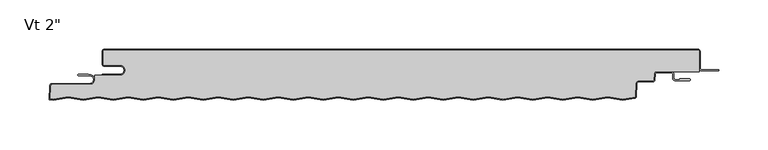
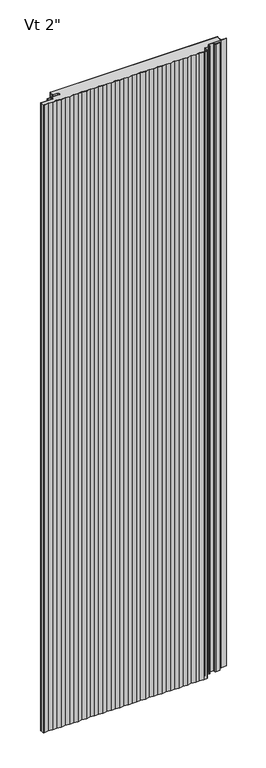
"""IFC4 building model written with IfcOpenShell, lengths in millimetres: plate geometry."""

from ifc_helpers import new_model, si_unit, point, frame, frame_2d, origin, origin_with_axes, place, context, project, spatial, polyline, circle_curve, ellipse_curve, trimmed, segment, composite_curve, outline, extrude, source, transform, mapped, element, save
from ifc_brep_helpers import plane_surface, cylinder_surface, revolved_surface, extruded_surface, advanced_brep


def plate_da60bb30(model_context):
    return source(origin(), model_context, "Body", "SolidModel", [
        extrude(outline(composite_curve([segment(trimmed(circle_curve(frame_2d((259.7683457, -25.4)), 2.5875), [point((259.7683457, -22.8125))], [point((257.1843918, -25.2645807))], True, "CARTESIAN"), True, "CONTINUOUS"), segment(polyline([(257.1843918, -25.2645807), (256.8823155, -31.028539)]), True, "CONTINUOUS"), segment(trimmed(circle_curve(frame_2d((255.5029585, -30.95625)), 1.38125), [point((256.8823155, -31.028539))], [point((255.5029585, -32.3375))], False, "CARTESIAN"), True, "CONTINUOUS"), segment(polyline([(255.5029585, -32.3375), (241.3323847, -32.3375)]), True, "CONTINUOUS"), segment(trimmed(circle_curve(frame_2d((241.3323847, -34.925)), 2.5875), [point((241.3323847, -32.3375))], [point((238.7484307, -34.7895807))], True, "CARTESIAN"), True, "CONTINUOUS"), segment(polyline([(238.7484307, -34.7895807), (238.0106485, -48.8673048), (225.2725, -50.9054086), (210.2350675, -48.4994194), (194.9950675, -50.9378194), (179.7550675, -48.4994194), (164.5150675, -50.9378194), (149.2750675, -48.4994194), (134.0350675, -50.9378194), (118.7950675, -48.4994194), (103.5550675, -50.9378194), (88.3150675, -48.4994194), (73.0750675, -50.9378194), (57.8350675, -48.4994194), (42.5950675, -50.9378194), (27.3550675, -48.4994194), (12.1150675, -50.9378194), (-3.1249325, -48.4994194), (-18.3649325, -50.9378194), (-33.6049325, -48.4994194), (-48.8449325, -50.9378194), (-64.0849325, -48.4994194), (-79.3249325, -50.9378194), (-94.5649325, -48.4994194), (-109.8049325, -50.9378194), (-125.0449325, -48.4994194), (-140.2849325, -50.9378194), (-155.5249325, -48.4994194), (-170.7649325, -50.9378194), (-186.0049325, -48.4994194), (-201.2449325, -50.9378194), (-216.4849325, -48.4994194), (-231.7249325, -50.9378194), (-246.9649325, -48.4994194), (-262.2049325, -50.9378194), (-277.4449325, -48.4994194), (-292.6849325, -50.9378194), (-307.9249325, -48.4994194), (-323.1649325, -50.9378194), (-338.4049325, -48.4994194), (-353.6449325, -50.9378194), (-356.9531106, -50.4085109), (-356.2626617, -37.233961)]), True, "CONTINUOUS"), segment(trimmed(circle_curve(frame_2d((-354.8833046, -37.30625)), 1.38125), [point((-356.2626617, -37.233961))], [point((-354.8833046, -35.925))], False, "CARTESIAN"), True, "CONTINUOUS"), segment(polyline([(-354.8833046, -35.925), (-316.7, -35.925)]), True, "CONTINUOUS"), segment(trimmed(circle_curve(frame_2d((-316.7, -30.95625)), 4.96875), [point((-316.7, -35.925))], [point((-311.73125, -30.95625))], True, "CARTESIAN"), True, "CONTINUOUS"), segment(polyline([(-311.73125, -30.95625), (-311.73125, -26.4), (-285.74375, -26.4)]), True, "CONTINUOUS"), segment(trimmed(circle_curve(frame_2d((-285.74375, -21.43125)), 4.96875), [point((-285.74375, -26.4))], [point((-285.74375, -16.4625))], True, "CARTESIAN"), True, "CONTINUOUS"), segment(polyline([(-285.74375, -16.4625), (-301.61875, -16.4625)]), True, "CONTINUOUS"), segment(trimmed(circle_curve(frame_2d((-301.61875, -15.08125)), 1.38125), [point((-301.61875, -16.4625))], [point((-303.0, -15.08125))], False, "CARTESIAN"), True, "CONTINUOUS"), segment(polyline([(-303.0, -15.08125), (-303.0, -2.38125)]), True, "CONTINUOUS"), segment(trimmed(circle_curve(frame_2d((-301.61875, -2.38125)), 1.38125), [point((-303.0, -2.38125))], [point((-301.61875, -1.0))], False, "CARTESIAN"), True, "CONTINUOUS"), segment(polyline([(-301.61875, -1.0), (301.63125, -1.0)]), True, "CONTINUOUS"), segment(trimmed(circle_curve(frame_2d((301.63125, -2.38125)), 1.38125), [point((301.63125, -1.0))], [point((303.0125, -2.38125))], False, "CARTESIAN"), True, "CONTINUOUS"), segment(polyline([(303.0125, -2.38125), (303.0125, -22.8125), (259.7683457, -22.8125)]), True, "CONTINUOUS")], self_intersect=False)), origin_with_axes(), (0.0, 0.0, 1.0), 2400.0),
        extrude(outline(composite_curve([segment(polyline([(-304.0, -25.4), (-285.74375, -25.4)]), True, "CONTINUOUS"), segment(trimmed(circle_curve(frame_2d((-285.74375, -21.43125)), 3.96875), [point((-285.74375, -25.4))], [point((-285.74375, -17.4625))], True, "CARTESIAN"), True, "CONTINUOUS"), segment(polyline([(-285.74375, -17.4625), (-301.61875, -17.4625)]), True, "CONTINUOUS"), segment(trimmed(circle_curve(frame_2d((-301.61875, -15.08125)), 2.38125), [point((-301.61875, -17.4625))], [point((-304.0, -15.08125))], False, "CARTESIAN"), True, "CONTINUOUS"), segment(polyline([(-304.0, -15.08125), (-304.0, -2.38125)]), True, "CONTINUOUS"), segment(trimmed(circle_curve(frame_2d((-301.61875, -2.38125)), 2.38125), [point((-304.0, -2.38125))], [point((-301.61875, 0.0))], False, "CARTESIAN"), True, "CONTINUOUS"), segment(polyline([(-301.61875, 0.0), (301.63125, 0.0)]), True, "CONTINUOUS"), segment(trimmed(circle_curve(frame_2d((301.63125, -2.38125)), 2.38125), [point((301.63125, 0.0))], [point((304.0125, -2.38125))], False, "CARTESIAN"), True, "CONTINUOUS"), segment(polyline([(304.0125, -2.38125), (304.0125, -19.446875)]), True, "CONTINUOUS"), segment(trimmed(circle_curve(frame_2d((305.6, -19.446875)), 1.5875), [point((304.0125, -19.446875))], [point((305.6, -21.034375))], True, "CARTESIAN"), True, "CONTINUOUS"), segment(polyline([(305.6, -21.034375), (323.0625, -21.034375), (323.0625, -22.034375), (305.6, -22.034375)]), True, "CONTINUOUS"), segment(trimmed(circle_curve(frame_2d((305.6, -19.446875)), 2.5875), [point((305.6, -22.034375))], [point((303.0125, -19.446875))], False, "CARTESIAN"), True, "CONTINUOUS"), segment(polyline([(303.0125, -19.446875), (303.0125, -2.38125)]), True, "CONTINUOUS"), segment(trimmed(circle_curve(frame_2d((301.63125, -2.38125)), 1.38125), [point((303.0125, -2.38125))], [point((301.63125, -1.0))], True, "CARTESIAN"), True, "CONTINUOUS"), segment(polyline([(301.63125, -1.0), (-301.61875, -1.0)]), True, "CONTINUOUS"), segment(trimmed(circle_curve(frame_2d((-301.61875, -2.38125)), 1.38125), [point((-301.61875, -1.0))], [point((-303.0, -2.38125))], True, "CARTESIAN"), True, "CONTINUOUS"), segment(polyline([(-303.0, -2.38125), (-303.0, -15.08125)]), True, "CONTINUOUS"), segment(trimmed(circle_curve(frame_2d((-301.61875, -15.08125)), 1.38125), [point((-303.0, -15.08125))], [point((-301.61875, -16.4625))], True, "CARTESIAN"), True, "CONTINUOUS"), segment(polyline([(-301.61875, -16.4625), (-285.74375, -16.4625)]), True, "CONTINUOUS"), segment(trimmed(circle_curve(frame_2d((-285.74375, -21.43125)), 4.96875), [point((-285.74375, -16.4625))], [point((-285.74375, -26.4))], False, "CARTESIAN"), True, "CONTINUOUS"), segment(polyline([(-285.74375, -26.4), (-304.0, -26.4), (-304.0, -25.4)]), True, "CONTINUOUS")], self_intersect=False)), origin_with_axes(), (0.0, 0.0, 1.0), 2400.0),
        advanced_brep(
        [(-328.0252049, -25.4, 2400.0), (-328.0252049, -26.9875, 2400.0), (-316.7142674, -26.9875, 2400.0), (-316.7142674, -34.925, 2400.0), (-354.8975721, -34.925, 2400.0), (-357.2755586, -37.181625, 2400.0), (-358.01832, -51.3543553, 2400.0), (-353.6646686, -52.0509395, 2400.0), (-338.4246686, -49.6125395, 2400.0), (-323.1846686, -52.0509395, 2400.0), (-307.9446686, -49.6125395, 2400.0), (-292.7046686, -52.0509395, 2400.0), (-277.4646686, -49.6125395, 2400.0), (-262.2246686, -52.0509395, 2400.0), (-246.9846686, -49.6125395, 2400.0), (-231.7446686, -52.0509395, 2400.0), (-216.5046686, -49.6125395, 2400.0), (-201.2646686, -52.0509395, 2400.0), (-186.0246686, -49.6125395, 2400.0), (-170.7846686, -52.0509395, 2400.0), (-155.5446686, -49.6125395, 2400.0), (-140.3046686, -52.0509395, 2400.0), (-125.0646686, -49.6125395, 2400.0), (-109.8246686, -52.0509395, 2400.0), (-94.5846686, -49.6125395, 2400.0), (-79.3446686, -52.0509395, 2400.0), (-64.1046686, -49.6125395, 2400.0), (-48.8646686, -52.0509395, 2400.0), (-33.6246686, -49.6125395, 2400.0), (-18.3846686, -52.0509395, 2400.0), (-3.1446686, -49.6125395, 2400.0), (12.0953314, -52.0509395, 2400.0), (27.3353314, -49.6125395, 2400.0), (42.5753314, -52.0509395, 2400.0), (57.8153314, -49.6125395, 2400.0), (73.0553314, -52.0509395, 2400.0), (88.2953314, -49.6125395, 2400.0), (103.5353314, -52.0509395, 2400.0), (118.7753314, -49.6125395, 2400.0), (134.0153314, -52.0509395, 2400.0), (149.2553314, -49.6125395, 2400.0), (164.4953314, -52.0509395, 2400.0), (179.7353314, -49.6125395, 2400.0), (194.9753314, -52.0509395, 2400.0), (210.2153314, -49.6125395, 2400.0), (225.2527639, -52.0185287, 2400.0), (237.6944828, -50.0278537, 2400.0), (239.0289973, -48.543375, 2400.0), (239.7470603, -34.8419167, 2400.0), (241.3323847, -33.3375, 2400.0), (255.4886911, -33.3375, 2400.0), (257.8666776, -31.080875, 2400.0), (258.1687539, -25.3169167, 2400.0), (259.7540783, -23.8125, 2400.0), (274.6294826, -23.8125, 2400.0), (276.2169826, -25.4, 2400.0), (276.2169826, -29.5671875, 2400.0), (278.5982326, -31.9484375, 2400.0), (293.0898532, -31.9484375, 2400.0), (293.0898532, -30.1546875, 2400.0), (283.3607326, -30.1546875, 2400.0), (283.3607326, -30.9484375, 2400.0), (278.5982326, -30.9484375, 2400.0), (277.2169826, -29.5671875, 2400.0), (277.2169826, -25.4, 2400.0), (274.6294826, -22.8125, 2400.0), (259.7540783, -22.8125, 2400.0), (257.1701244, -25.2645807, 2400.0), (256.8680481, -31.028539, 2400.0), (255.4886911, -32.3375, 2400.0), (241.3323847, -32.3375, 2400.0), (238.7484307, -34.7895807, 2400.0), (238.0303677, -48.491039, 2400.0), (237.5364923, -49.040413, 2400.0), (225.2527639, -51.0058096, 2400.0), (210.2153314, -48.5998204, 2400.0), (194.9753314, -51.0382204, 2400.0), (179.7353314, -48.5998204, 2400.0), (164.4953314, -51.0382204, 2400.0), (149.2553314, -48.5998204, 2400.0), (134.0153314, -51.0382204, 2400.0), (118.7753314, -48.5998204, 2400.0), (103.5353314, -51.0382204, 2400.0), (88.2953314, -48.5998204, 2400.0), (73.0553314, -51.0382204, 2400.0), (57.8153314, -48.5998204, 2400.0), (42.5753314, -51.0382204, 2400.0), (27.3353314, -48.5998204, 2400.0), (12.0953314, -51.0382204, 2400.0), (-3.1446686, -48.5998204, 2400.0), (-18.3846686, -51.0382204, 2400.0), (-33.6246686, -48.5998204, 2400.0), (-48.8646686, -51.0382204, 2400.0), (-64.1046686, -48.5998204, 2400.0), (-79.3446686, -51.0382204, 2400.0), (-94.5846686, -48.5998204, 2400.0), (-109.8246686, -51.0382204, 2400.0), (-125.0646686, -48.5998204, 2400.0), (-140.3046686, -51.0382204, 2400.0), (-155.5446686, -48.5998204, 2400.0), (-170.7846686, -51.0382204, 2400.0), (-186.0246686, -48.5998204, 2400.0), (-201.2646686, -51.0382204, 2400.0), (-216.5046686, -48.5998204, 2400.0), (-231.7446686, -51.0382204, 2400.0), (-246.9846686, -48.5998204, 2400.0), (-262.2246686, -51.0382204, 2400.0), (-277.4646686, -48.5998204, 2400.0), (-292.7046686, -51.0382204, 2400.0), (-307.9446686, -48.5998204, 2400.0), (-323.1846686, -51.0382204, 2400.0), (-338.4246686, -48.5998204, 2400.0), (-353.6646686, -51.0382204, 2400.0), (-356.9726415, -50.5089447, 2400.0), (-356.2769291, -37.233961, 2400.0), (-354.8975721, -35.925, 2400.0), (-316.7142674, -35.925, 2400.0), (-316.7142674, -25.9875, 2400.0), (-318.3017674, -26.19375, 2400.0), (-318.3017674, -25.4, 2400.0), (-328.0252049, -25.4, 0.0), (-318.3017674, -25.4, 0.0), (-318.3017674, -26.19375, 0.0), (-316.7142674, -25.9875, 0.0), (-316.7142674, -35.925, 0.0), (-354.8975721, -35.925, 0.0), (-356.2769291, -37.233961, 0.0), (-356.9726415, -50.5089447, 0.0), (-353.6646686, -51.0382204, 0.0), (-338.4246686, -48.5998204, 0.0), (-323.1846686, -51.0382204, 0.0), (-307.9446686, -48.5998204, 0.0), (-292.7046686, -51.0382204, 0.0), (-277.4646686, -48.5998204, 0.0), (-262.2246686, -51.0382204, 0.0), (-246.9846686, -48.5998204, 0.0), (-231.7446686, -51.0382204, 0.0), (-216.5046686, -48.5998204, 0.0), (-201.2646686, -51.0382204, 0.0), (-186.0246686, -48.5998204, 0.0), (-170.7846686, -51.0382204, 0.0), (-155.5446686, -48.5998204, 0.0), (-140.3046686, -51.0382204, 0.0), (-125.0646686, -48.5998204, 0.0), (-109.8246686, -51.0382204, 0.0), (-94.5846686, -48.5998204, 0.0), (-79.3446686, -51.0382204, 0.0), (-64.1046686, -48.5998204, 0.0), (-48.8646686, -51.0382204, 0.0), (-33.6246686, -48.5998204, 0.0), (-18.3846686, -51.0382204, 0.0), (-3.1446686, -48.5998204, 0.0), (12.0953314, -51.0382204, 0.0), (27.3353314, -48.5998204, 0.0), (42.5753314, -51.0382204, 0.0), (57.8153314, -48.5998204, 0.0), (73.0553314, -51.0382204, 0.0), (88.2953314, -48.5998204, 0.0), (103.5353314, -51.0382204, 0.0), (118.7753314, -48.5998204, 0.0), (134.0153314, -51.0382204, 0.0), (149.2553314, -48.5998204, 0.0), (164.4953314, -51.0382204, 0.0), (179.7353314, -48.5998204, 0.0), (194.9753314, -51.0382204, 0.0), (210.2153314, -48.5998204, 0.0), (225.2527639, -51.0058096, 0.0), (237.5364923, -49.040413, 0.0), (238.0303677, -48.491039, 0.0), (238.7484307, -34.7895807, 0.0), (241.3323847, -32.3375, 0.0), (255.4886911, -32.3375, 0.0), (256.8680481, -31.028539, 0.0), (257.1701244, -25.2645807, 0.0), (259.7540783, -22.8125, 0.0), (274.6294826, -22.8125, 0.0), (277.2169826, -25.4, 0.0), (277.2169826, -29.5671875, 0.0), (278.5982326, -30.9484375, 0.0), (283.3607326, -30.9484375, 0.0), (283.3607326, -30.1546875, 0.0), (293.0898532, -30.1546875, 0.0), (293.0898532, -31.9484375, 0.0), (278.5982326, -31.9484375, 0.0), (276.2169826, -29.5671875, 0.0), (276.2169826, -25.4, 0.0), (274.6294826, -23.8125, 0.0), (259.7540783, -23.8125, 0.0), (258.1687539, -25.3169167, 0.0), (257.8666776, -31.080875, 0.0), (255.4886911, -33.3375, 0.0), (241.3323847, -33.3375, 0.0), (239.7470603, -34.8419167, 0.0), (239.0289973, -48.543375, 0.0), (237.6944828, -50.0278537, 0.0), (225.2527639, -52.0185287, 0.0), (210.2153314, -49.6125395, 0.0), (194.9753314, -52.0509395, 0.0), (179.7353314, -49.6125395, 0.0), (164.4953314, -52.0509395, 0.0), (149.2553314, -49.6125395, 0.0), (134.0153314, -52.0509395, 0.0), (118.7753314, -49.6125395, 0.0), (103.5353314, -52.0509395, 0.0), (88.2953314, -49.6125395, 0.0), (73.0553314, -52.0509395, 0.0), (57.8153314, -49.6125395, 0.0), (42.5753314, -52.0509395, 0.0), (27.3353314, -49.6125395, 0.0), (12.0953314, -52.0509395, 0.0), (-3.1446686, -49.6125395, 0.0), (-18.3846686, -52.0509395, 0.0), (-33.6246686, -49.6125395, 0.0), (-48.8646686, -52.0509395, 0.0), (-64.1046686, -49.6125395, 0.0), (-79.3446686, -52.0509395, 0.0), (-94.5846686, -49.6125395, 0.0), (-109.8246686, -52.0509395, 0.0), (-125.0646686, -49.6125395, 0.0), (-140.3046686, -52.0509395, 0.0), (-155.5446686, -49.6125395, 0.0), (-170.7846686, -52.0509395, 0.0), (-186.0246686, -49.6125395, 0.0), (-201.2646686, -52.0509395, 0.0), (-216.5046686, -49.6125395, 0.0), (-231.7446686, -52.0509395, 0.0), (-246.9846686, -49.6125395, 0.0), (-262.2246686, -52.0509395, 0.0), (-277.4646686, -49.6125395, 0.0), (-292.7046686, -52.0509395, 0.0), (-307.9446686, -49.6125395, 0.0), (-323.1846686, -52.0509395, 0.0), (-338.4246686, -49.6125395, 0.0), (-353.6646686, -52.0509395, 0.0), (-358.01832, -51.3543553, 0.0), (-357.2755586, -37.181625, 0.0), (-354.8975721, -34.925, 0.0), (-316.7142674, -34.925, 0.0), (-316.7142674, -26.9875, 0.0), (-328.0252049, -26.9875, 0.0)],
        [
            (0, 1, circle_curve(frame((-328.0252049, -26.19375, 2400.0), z_axis=(0.0, 0.0, 1.0), x_axis=(1.0, 0.0, 0.0)), 0.79375)),
            (1, 2),
            (2, 3, circle_curve(frame((-316.7142674, -30.95625, 2400.0), z_axis=(0.0, 0.0, -1.0), x_axis=(1.0, 0.0, 0.0)), 3.96875)),
            (3, 4),
            (4, 5, circle_curve(frame((-354.8975721, -37.30625, 2400.0), z_axis=(0.0, 0.0, 1.0), x_axis=(1.0, 0.0, 0.0)), 2.38125)),
            (5, 6),
            (6, 7),
            (7, 8),
            (8, 9),
            (9, 10),
            (10, 11),
            (11, 12),
            (12, 13),
            (13, 14),
            (14, 15),
            (15, 16),
            (16, 17),
            (17, 18),
            (18, 19),
            (19, 20),
            (20, 21),
            (21, 22),
            (22, 23),
            (23, 24),
            (24, 25),
            (25, 26),
            (26, 27),
            (27, 28),
            (28, 29),
            (29, 30),
            (30, 31),
            (31, 32),
            (32, 33),
            (33, 34),
            (34, 35),
            (35, 36),
            (36, 37),
            (37, 38),
            (38, 39),
            (39, 40),
            (40, 41),
            (41, 42),
            (42, 43),
            (43, 44),
            (44, 45),
            (45, 46),
            (46, 47, circle_curve(frame((237.4436729, -48.4602917, 2400.0), z_axis=(0.0, 0.0, 1.0), x_axis=(1.0, 0.0, 0.0)), 1.5875)),
            (47, 48),
            (48, 49, circle_curve(frame((241.3323847, -34.925, 2400.0), z_axis=(0.0, 0.0, -1.0), x_axis=(1.0, 0.0, 0.0)), 1.5875)),
            (49, 50),
            (50, 51, circle_curve(frame((255.4886911, -30.95625, 2400.0), z_axis=(0.0, 0.0, 1.0), x_axis=(1.0, 0.0, 0.0)), 2.38125)),
            (51, 52),
            (52, 53, circle_curve(frame((259.7540783, -25.4, 2400.0), z_axis=(0.0, 0.0, -1.0), x_axis=(1.0, 0.0, 0.0)), 1.5875)),
            (53, 54),
            (54, 55, circle_curve(frame((274.6294826, -25.4, 2400.0), z_axis=(0.0, 0.0, -1.0), x_axis=(1.0, 0.0, 0.0)), 1.5875)),
            (55, 56),
            (56, 57, circle_curve(frame((278.5982326, -29.5671875, 2400.0), z_axis=(0.0, 0.0, 1.0), x_axis=(1.0, 0.0, 0.0)), 2.38125)),
            (57, 58),
            (58, 59, ellipse_curve(frame((293.0898532, -31.0515625, 2400.0), z_axis=(0.0, 0.0, 1.0), x_axis=(0.0, 1.0, 0.0)), 0.896875, 0.7852275)),
            (59, 60),
            (60, 61),
            (61, 62),
            (62, 63, circle_curve(frame((278.5982326, -29.5671875, 2400.0), z_axis=(0.0, 0.0, -1.0), x_axis=(1.0, 0.0, 0.0)), 1.38125)),
            (63, 64),
            (64, 65, circle_curve(frame((274.6294826, -25.4, 2400.0), z_axis=(0.0, 0.0, 1.0), x_axis=(1.0, 0.0, 0.0)), 2.5875)),
            (65, 66),
            (66, 67, circle_curve(frame((259.7540783, -25.4, 2400.0), z_axis=(0.0, 0.0, 1.0), x_axis=(1.0, 0.0, 0.0)), 2.5875)),
            (67, 68),
            (68, 69, circle_curve(frame((255.4886911, -30.95625, 2400.0), z_axis=(0.0, 0.0, -1.0), x_axis=(1.0, 0.0, 0.0)), 1.38125)),
            (69, 70),
            (70, 71, circle_curve(frame((241.3323847, -34.925, 2400.0), z_axis=(0.0, 0.0, 1.0), x_axis=(1.0, 0.0, 0.0)), 2.5875)),
            (71, 72),
            (72, 73, circle_curve(frame((237.4436729, -48.4602917, 2400.0), z_axis=(0.0, 0.0, -1.0), x_axis=(1.0, 0.0, 0.0)), 0.5875)),
            (73, 74),
            (74, 75),
            (75, 76),
            (76, 77),
            (77, 78),
            (78, 79),
            (79, 80),
            (80, 81),
            (81, 82),
            (82, 83),
            (83, 84),
            (84, 85),
            (85, 86),
            (86, 87),
            (87, 88),
            (88, 89),
            (89, 90),
            (90, 91),
            (91, 92),
            (92, 93),
            (93, 94),
            (94, 95),
            (95, 96),
            (96, 97),
            (97, 98),
            (98, 99),
            (99, 100),
            (100, 101),
            (101, 102),
            (102, 103),
            (103, 104),
            (104, 105),
            (105, 106),
            (106, 107),
            (107, 108),
            (108, 109),
            (109, 110),
            (110, 111),
            (111, 112),
            (112, 113),
            (113, 114),
            (114, 115, circle_curve(frame((-354.8975721, -37.30625, 2400.0), z_axis=(0.0, 0.0, -1.0), x_axis=(1.0, 0.0, 0.0)), 1.38125)),
            (115, 116),
            (116, 117, circle_curve(frame((-316.7142674, -30.95625, 2400.0), z_axis=(0.0, 0.0, 1.0), x_axis=(1.0, 0.0, 0.0)), 4.96875)),
            (117, 118),
            (118, 119),
            (119, 0),
            (120, 121),
            (121, 122),
            (122, 123),
            (123, 124, circle_curve(frame((-316.7142674, -30.95625, 0.0), z_axis=(0.0, 0.0, -1.0), x_axis=(1.0, 0.0, 0.0)), 4.96875)),
            (124, 125),
            (125, 126, circle_curve(frame((-354.8975721, -37.30625, 0.0), z_axis=(0.0, 0.0, 1.0), x_axis=(1.0, 0.0, 0.0)), 1.38125)),
            (126, 127),
            (127, 128),
            (128, 129),
            (129, 130),
            (130, 131),
            (131, 132),
            (132, 133),
            (133, 134),
            (134, 135),
            (135, 136),
            (136, 137),
            (137, 138),
            (138, 139),
            (139, 140),
            (140, 141),
            (141, 142),
            (142, 143),
            (143, 144),
            (144, 145),
            (145, 146),
            (146, 147),
            (147, 148),
            (148, 149),
            (149, 150),
            (150, 151),
            (151, 152),
            (152, 153),
            (153, 154),
            (154, 155),
            (155, 156),
            (156, 157),
            (157, 158),
            (158, 159),
            (159, 160),
            (160, 161),
            (161, 162),
            (162, 163),
            (163, 164),
            (164, 165),
            (165, 166),
            (166, 167),
            (167, 168, circle_curve(frame((237.4436729, -48.4602917, 0.0), z_axis=(0.0, 0.0, 1.0), x_axis=(1.0, 0.0, 0.0)), 0.5875)),
            (168, 169),
            (169, 170, circle_curve(frame((241.3323847, -34.925, 0.0), z_axis=(0.0, 0.0, -1.0), x_axis=(1.0, 0.0, 0.0)), 2.5875)),
            (170, 171),
            (171, 172, circle_curve(frame((255.4886911, -30.95625, 0.0), z_axis=(0.0, 0.0, 1.0), x_axis=(1.0, 0.0, 0.0)), 1.38125)),
            (172, 173),
            (173, 174, circle_curve(frame((259.7540783, -25.4, 0.0), z_axis=(0.0, 0.0, -1.0), x_axis=(1.0, 0.0, 0.0)), 2.5875)),
            (174, 175),
            (175, 176, circle_curve(frame((274.6294826, -25.4, 0.0), z_axis=(0.0, 0.0, -1.0), x_axis=(1.0, 0.0, 0.0)), 2.5875)),
            (176, 177),
            (177, 178, circle_curve(frame((278.5982326, -29.5671875, 0.0), z_axis=(0.0, 0.0, 1.0), x_axis=(1.0, 0.0, 0.0)), 1.38125)),
            (178, 179),
            (179, 180),
            (180, 181),
            (181, 182, ellipse_curve(frame((293.0898532, -31.0515625, 0.0), z_axis=(0.0, 0.0, -1.0), x_axis=(0.0, 1.0, 0.0)), 0.896875, 0.7852275)),
            (182, 183),
            (183, 184, circle_curve(frame((278.5982326, -29.5671875, 0.0), z_axis=(0.0, 0.0, -1.0), x_axis=(1.0, 0.0, 0.0)), 2.38125)),
            (184, 185),
            (185, 186, circle_curve(frame((274.6294826, -25.4, 0.0), z_axis=(0.0, 0.0, 1.0), x_axis=(1.0, 0.0, 0.0)), 1.5875)),
            (186, 187),
            (187, 188, circle_curve(frame((259.7540783, -25.4, 0.0), z_axis=(0.0, 0.0, 1.0), x_axis=(1.0, 0.0, 0.0)), 1.5875)),
            (188, 189),
            (189, 190, circle_curve(frame((255.4886911, -30.95625, 0.0), z_axis=(0.0, 0.0, -1.0), x_axis=(1.0, 0.0, 0.0)), 2.38125)),
            (190, 191),
            (191, 192, circle_curve(frame((241.3323847, -34.925, 0.0), z_axis=(0.0, 0.0, 1.0), x_axis=(1.0, 0.0, 0.0)), 1.5875)),
            (192, 193),
            (193, 194, circle_curve(frame((237.4436729, -48.4602917, 0.0), z_axis=(0.0, 0.0, -1.0), x_axis=(1.0, 0.0, 0.0)), 1.5875)),
            (194, 195),
            (195, 196),
            (196, 197),
            (197, 198),
            (198, 199),
            (199, 200),
            (200, 201),
            (201, 202),
            (202, 203),
            (203, 204),
            (204, 205),
            (205, 206),
            (206, 207),
            (207, 208),
            (208, 209),
            (209, 210),
            (210, 211),
            (211, 212),
            (212, 213),
            (213, 214),
            (214, 215),
            (215, 216),
            (216, 217),
            (217, 218),
            (218, 219),
            (219, 220),
            (220, 221),
            (221, 222),
            (222, 223),
            (223, 224),
            (224, 225),
            (225, 226),
            (226, 227),
            (227, 228),
            (228, 229),
            (229, 230),
            (230, 231),
            (231, 232),
            (232, 233),
            (233, 234),
            (234, 235),
            (235, 236, circle_curve(frame((-354.8975721, -37.30625, 0.0), z_axis=(0.0, 0.0, -1.0), x_axis=(1.0, 0.0, 0.0)), 2.38125)),
            (236, 237),
            (237, 238, circle_curve(frame((-316.7142674, -30.95625, 0.0), z_axis=(0.0, 0.0, 1.0), x_axis=(1.0, 0.0, 0.0)), 3.96875)),
            (238, 239),
            (239, 120, circle_curve(frame((-328.0252049, -26.19375, 0.0), z_axis=(0.0, 0.0, -1.0), x_axis=(1.0, 0.0, 0.0)), 0.79375)),
            (119, 121),
            (120, 0),
            (239, 1),
            (238, 2),
            (237, 3),
            (236, 4),
            (235, 5),
            (234, 6),
            (48, 192),
            (191, 49),
            (190, 50),
            (189, 51),
            (188, 52),
            (187, 53),
            (114, 126),
            (125, 115),
            (113, 127),
            (70, 170),
            (169, 71),
            (69, 171),
            (68, 172),
            (67, 173),
            (66, 174),
            (61, 179),
            (178, 62),
            (177, 63),
            (176, 64),
            (186, 54),
            (185, 55),
            (184, 56),
            (183, 57),
            (182, 58),
            (65, 175),
            (124, 116),
            (123, 117),
            (118, 122),
            (60, 180),
            (59, 181),
            (47, 193),
            (168, 72),
            (44, 196),
            (195, 45),
            (74, 166),
            (165, 75),
            (164, 76),
            (163, 77),
            (162, 78),
            (161, 79),
            (160, 80),
            (159, 81),
            (158, 82),
            (157, 83),
            (156, 84),
            (155, 85),
            (154, 86),
            (153, 87),
            (152, 88),
            (151, 89),
            (107, 133),
            (132, 108),
            (131, 109),
            (130, 110),
            (129, 111),
            (106, 134),
            (105, 135),
            (104, 136),
            (103, 137),
            (102, 138),
            (101, 139),
            (100, 140),
            (99, 141),
            (98, 142),
            (97, 143),
            (96, 144),
            (95, 145),
            (94, 146),
            (93, 147),
            (92, 148),
            (91, 149),
            (90, 150),
            (128, 112),
            (233, 7),
            (232, 8),
            (231, 9),
            (230, 10),
            (229, 11),
            (228, 12),
            (227, 13),
            (226, 14),
            (225, 15),
            (224, 16),
            (223, 17),
            (222, 18),
            (30, 210),
            (209, 31),
            (208, 32),
            (207, 33),
            (206, 34),
            (205, 35),
            (204, 36),
            (203, 37),
            (202, 38),
            (201, 39),
            (200, 40),
            (199, 41),
            (198, 42),
            (197, 43),
            (194, 46),
            (167, 73),
            (29, 211),
            (28, 212),
            (27, 213),
            (26, 214),
            (25, 215),
            (24, 216),
            (23, 217),
            (22, 218),
            (21, 219),
            (20, 220),
            (19, 221),
        ],
        [
            plane_surface(frame((0.00625, -50.8, 2400.0), z_axis=(0.0, 0.0, 1.0), x_axis=(0.0, -1.0, 0.0))),
            plane_surface(frame((0.00625, -50.8, 0.0), z_axis=(0.0, 0.0, -1.0), x_axis=(0.0, -1.0, 0.0))),
            plane_surface(frame((-328.0252049, -25.4, 2400.0), z_axis=(0.0, 1.0, 0.0), x_axis=(0.0, 0.0, -1.0))),
            cylinder_surface(frame((-328.0252049, -26.19375, 2400.0), z_axis=(0.0, 0.0, 1.0), x_axis=(1.0, 0.0, 0.0)), 0.79375),
            plane_surface(frame((-316.7142674, -26.9875, 2400.0), z_axis=(0.0, -1.0, 0.0), x_axis=(0.0, 0.0, -1.0))),
            revolved_surface(polyline([(-312.7455174, -30.95625, 0.0), (-312.7455174, -30.95625, 2400.0)]), (-316.7142674, -30.95625, 2400.0), (0.0, 0.0, -1.0)),
            plane_surface(frame((-354.8975721, -34.925, 2400.0), z_axis=(0.0, 1.0, 0.0), x_axis=(0.0, 0.0, -1.0))),
            cylinder_surface(frame((-354.8975721, -37.30625, 2400.0), z_axis=(0.0, 0.0, 1.0), x_axis=(1.0, 0.0, 0.0)), 2.38125),
            plane_surface(frame((-358.01832, -51.3543553, 2400.0), z_axis=(-0.9986295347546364, 0.05233595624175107, 0.0), x_axis=(0.0, 0.0, -1.0))),
            revolved_surface(polyline([(242.9198847, -34.925, 0.0), (242.9198847, -34.925, 2400.0)]), (241.3323847, -34.925, 2400.0), (0.0, 0.0, -1.0)),
            plane_surface(frame((255.4886911, -33.3375, 2400.0), z_axis=(0.0, -1.0, 0.0), x_axis=(0.0, 0.0, -1.0))),
            cylinder_surface(frame((255.4886911, -30.95625, 2400.0), z_axis=(0.0, 0.0, 1.0), x_axis=(1.0, 0.0, 0.0)), 2.38125),
            plane_surface(frame((258.1687539, -25.3169167, 2400.0), z_axis=(0.9986295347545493, -0.052335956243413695, 0.0), x_axis=(0.0, 0.0, -1.0))),
            revolved_surface(polyline([(261.3415783, -25.4, 0.0), (261.3415783, -25.4, 2400.0)]), (259.7540783, -25.4, 2400.0), (0.0, 0.0, -1.0)),
            revolved_surface(polyline([(-353.51632209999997, -37.30625, 0.0), (-353.51632209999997, -37.30625, 2400.0)]), (-354.8975721, -37.30625, 2400.0), (0.0, 0.0, -1.0)),
            plane_surface(frame((-356.2769291, -37.233961, 2400.0), z_axis=(0.9986295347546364, -0.05233595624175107, 0.0), x_axis=(0.0, 0.0, -1.0))),
            cylinder_surface(frame((241.3323847, -34.925, 2400.0), z_axis=(0.0, 0.0, 1.0), x_axis=(1.0, 0.0, 0.0)), 2.5875),
            plane_surface(frame((241.3323847, -32.3375, 2400.0), z_axis=(0.0, 1.0, 0.0), x_axis=(0.0, 0.0, -1.0))),
            revolved_surface(polyline([(256.8699411, -30.95625, 0.0), (256.8699411, -30.95625, 2400.0)]), (255.4886911, -30.95625, 2400.0), (0.0, 0.0, -1.0)),
            plane_surface(frame((256.8680481, -31.028539, 2400.0), z_axis=(-0.998629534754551, 0.05233595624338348, 0.0), x_axis=(0.0, 0.0, -1.0))),
            cylinder_surface(frame((259.7540783, -25.4, 2400.0), z_axis=(0.0, 0.0, 1.0), x_axis=(1.0, 0.0, 0.0)), 2.5875),
            plane_surface(frame((278.5982326, -30.9484375, 2400.0), z_axis=(0.0, 1.0, 0.0), x_axis=(0.0, 0.0, -1.0))),
            revolved_surface(polyline([(279.97948260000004, -29.5671875, 0.0), (279.97948260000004, -29.5671875, 2400.0)]), (278.5982326, -29.5671875, 2400.0), (0.0, 0.0, -1.0)),
            plane_surface(frame((277.2169826, -25.4, 2400.0), z_axis=(1.0, 0.0, 0.0), x_axis=(0.0, 0.0, -1.0))),
            plane_surface(frame((274.6294826, -23.8125, 2400.0), z_axis=(0.0, -1.0, 0.0), x_axis=(0.0, 0.0, -1.0))),
            revolved_surface(polyline([(276.2169826, -25.4, 0.0), (276.2169826, -25.4, 2400.0)]), (274.6294826, -25.4, 2400.0), (0.0, 0.0, -1.0)),
            plane_surface(frame((276.2169826, -29.5671875, 2400.0), z_axis=(-1.0, 0.0, 0.0), x_axis=(0.0, 0.0, -1.0))),
            cylinder_surface(frame((278.5982326, -29.5671875, 2400.0), z_axis=(0.0, 0.0, 1.0), x_axis=(1.0, 0.0, 0.0)), 2.38125),
            plane_surface(frame((293.0898532, -31.9484375, 2400.0), z_axis=(0.0, -1.0, 0.0), x_axis=(0.0, 0.0, -1.0))),
            plane_surface(frame((259.7540783, -22.8125, 2400.0), z_axis=(0.0, 1.0, 0.0), x_axis=(0.0, 0.0, -1.0))),
            cylinder_surface(frame((274.6294826, -25.4, 2400.0), z_axis=(0.0, 0.0, 1.0), x_axis=(1.0, 0.0, 0.0)), 2.5875),
            plane_surface(frame((-316.7142674, -35.925, 2400.0), z_axis=(0.0, -1.0, 0.0), x_axis=(0.0, 0.0, -1.0))),
            cylinder_surface(frame((-316.7142674, -30.95625, 2400.0), z_axis=(0.0, 0.0, 1.0), x_axis=(1.0, 0.0, 0.0)), 4.96875),
            plane_surface(frame((-318.3017674, -25.4, 2400.0), z_axis=(1.0, 0.0, 0.0), x_axis=(0.0, 0.0, -1.0))),
            plane_surface(frame((-318.3017674, -26.19375, 2400.0), z_axis=(-0.12883844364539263, 0.9916655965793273, 0.0), x_axis=(0.0, 0.0, -1.0))),
            plane_surface(frame((283.3607326, -30.9484375, 2400.0), z_axis=(-1.0, 0.0, 0.0), x_axis=(0.0, 0.0, -1.0))),
            plane_surface(frame((283.3607326, -30.1546875, 2400.0), z_axis=(0.0, 1.0, 0.0), x_axis=(0.0, 0.0, -1.0))),
            extruded_surface(trimmed(ellipse_curve(frame((293.0898532, -31.0515625, 2400.0), z_axis=(0.0, 0.0, -1.0), x_axis=(0.0, 1.0, 0.0)), 0.896875, 0.7852275), [point((293.0898532, -30.1546875, 2400.0))], [point((293.0898532, -31.9484375, 2400.0))], True, "CARTESIAN"), (0.0, 0.0, -2400.0), 2400.0),
            plane_surface(frame((239.7470603, -34.8419167, 2400.0), z_axis=(0.9986295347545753, -0.052335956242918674, 0.0), x_axis=(0.0, 0.0, -1.0))),
            plane_surface(frame((238.0303677, -48.491039, 2400.0), z_axis=(-0.9986295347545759, 0.05233595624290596, 0.0), x_axis=(0.0, 0.0, -1.0))),
            plane_surface(frame((225.2527639, -52.0185287, 2400.0), z_axis=(-0.15799050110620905, -0.9874406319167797, 0.0), x_axis=(0.0, 0.0, -1.0))),
            plane_surface(frame((210.2153314, -48.5998204, 2400.0), z_axis=(0.15799050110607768, 0.9874406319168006, 0.0), x_axis=(0.0, 0.0, -1.0))),
            plane_surface(frame((194.9753314, -51.0382204, 2400.0), z_axis=(-0.15799050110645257, 0.9874406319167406, 0.0), x_axis=(0.0, 0.0, -1.0))),
            plane_surface(frame((179.7353314, -48.5998204, 2400.0), z_axis=(0.157990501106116, 0.9874406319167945, 0.0), x_axis=(0.0, 0.0, -1.0))),
            plane_surface(frame((164.4953314, -51.0382204, 2400.0), z_axis=(-0.15799050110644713, 0.9874406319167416, 0.0), x_axis=(0.0, 0.0, -1.0))),
            plane_surface(frame((149.2553314, -48.5998204, 2400.0), z_axis=(0.157990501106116, 0.9874406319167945, 0.0), x_axis=(0.0, 0.0, -1.0))),
            plane_surface(frame((134.0153314, -51.0382204, 2400.0), z_axis=(-0.15799050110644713, 0.9874406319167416, 0.0), x_axis=(0.0, 0.0, -1.0))),
            plane_surface(frame((118.7753314, -48.5998204, 2400.0), z_axis=(0.157990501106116, 0.9874406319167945, 0.0), x_axis=(0.0, 0.0, -1.0))),
            plane_surface(frame((103.5353314, -51.0382204, 2400.0), z_axis=(-0.15799050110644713, 0.9874406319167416, 0.0), x_axis=(0.0, 0.0, -1.0))),
            plane_surface(frame((88.2953314, -48.5998204, 2400.0), z_axis=(0.15799050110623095, 0.9874406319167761, 0.0), x_axis=(0.0, 0.0, -1.0))),
            plane_surface(frame((73.0553314, -51.0382204, 2400.0), z_axis=(-0.15799050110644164, 0.9874406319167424, 0.0), x_axis=(0.0, 0.0, -1.0))),
            plane_surface(frame((57.8153314, -48.5998204, 2400.0), z_axis=(0.15799050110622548, 0.987440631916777, 0.0), x_axis=(0.0, 0.0, -1.0))),
            plane_surface(frame((42.5753314, -51.0382204, 2400.0), z_axis=(-0.15799050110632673, 0.9874406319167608, 0.0), x_axis=(0.0, 0.0, -1.0))),
            plane_surface(frame((27.3353314, -48.5998204, 2400.0), z_axis=(0.15799050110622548, 0.987440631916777, 0.0), x_axis=(0.0, 0.0, -1.0))),
            plane_surface(frame((12.0953314, -51.0382204, 2400.0), z_axis=(-0.15799050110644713, 0.9874406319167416, 0.0), x_axis=(0.0, 0.0, -1.0))),
            plane_surface(frame((-3.1446686, -48.5998204, 2400.0), z_axis=(0.15799050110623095, 0.9874406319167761, 0.0), x_axis=(0.0, 0.0, -1.0))),
            plane_surface(frame((-292.7046686, -51.0382204, 2400.0), z_axis=(-0.15799050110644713, 0.9874406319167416, 0.0), x_axis=(0.0, 0.0, -1.0))),
            plane_surface(frame((-307.9446686, -48.5998204, 2400.0), z_axis=(0.15799050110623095, 0.9874406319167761, 0.0), x_axis=(0.0, 0.0, -1.0))),
            plane_surface(frame((-323.1846686, -51.0382204, 2400.0), z_axis=(-0.15799050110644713, 0.9874406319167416, 0.0), x_axis=(0.0, 0.0, -1.0))),
            plane_surface(frame((-338.4246686, -48.5998204, 2400.0), z_axis=(0.157990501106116, 0.9874406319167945, 0.0), x_axis=(0.0, 0.0, -1.0))),
            plane_surface(frame((-277.4646686, -48.5998204, 2400.0), z_axis=(0.15799050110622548, 0.987440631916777, 0.0), x_axis=(0.0, 0.0, -1.0))),
            plane_surface(frame((-262.2246686, -51.0382204, 2400.0), z_axis=(-0.15799050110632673, 0.9874406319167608, 0.0), x_axis=(0.0, 0.0, -1.0))),
            plane_surface(frame((-246.9846686, -48.5998204, 2400.0), z_axis=(0.15799050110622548, 0.987440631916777, 0.0), x_axis=(0.0, 0.0, -1.0))),
            plane_surface(frame((-231.7446686, -51.0382204, 2400.0), z_axis=(-0.15799050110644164, 0.9874406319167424, 0.0), x_axis=(0.0, 0.0, -1.0))),
            plane_surface(frame((-216.5046686, -48.5998204, 2400.0), z_axis=(0.15799050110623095, 0.9874406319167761, 0.0), x_axis=(0.0, 0.0, -1.0))),
            plane_surface(frame((-201.2646686, -51.0382204, 2400.0), z_axis=(-0.15799050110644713, 0.9874406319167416, 0.0), x_axis=(0.0, 0.0, -1.0))),
            plane_surface(frame((-186.0246686, -48.5998204, 2400.0), z_axis=(0.157990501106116, 0.9874406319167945, 0.0), x_axis=(0.0, 0.0, -1.0))),
            plane_surface(frame((-170.7846686, -51.0382204, 2400.0), z_axis=(-0.15799050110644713, 0.9874406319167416, 0.0), x_axis=(0.0, 0.0, -1.0))),
            plane_surface(frame((-155.5446686, -48.5998204, 2400.0), z_axis=(0.15799050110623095, 0.9874406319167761, 0.0), x_axis=(0.0, 0.0, -1.0))),
            plane_surface(frame((-140.3046686, -51.0382204, 2400.0), z_axis=(-0.15799050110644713, 0.9874406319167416, 0.0), x_axis=(0.0, 0.0, -1.0))),
            plane_surface(frame((-125.0646686, -48.5998204, 2400.0), z_axis=(0.15799050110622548, 0.987440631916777, 0.0), x_axis=(0.0, 0.0, -1.0))),
            plane_surface(frame((-109.8246686, -51.0382204, 2400.0), z_axis=(-0.15799050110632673, 0.9874406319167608, 0.0), x_axis=(0.0, 0.0, -1.0))),
            plane_surface(frame((-94.5846686, -48.5998204, 2400.0), z_axis=(0.15799050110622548, 0.987440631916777, 0.0), x_axis=(0.0, 0.0, -1.0))),
            plane_surface(frame((-79.3446686, -51.0382204, 2400.0), z_axis=(-0.15799050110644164, 0.9874406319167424, 0.0), x_axis=(0.0, 0.0, -1.0))),
            plane_surface(frame((-64.1046686, -48.5998204, 2400.0), z_axis=(0.15799050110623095, 0.9874406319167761, 0.0), x_axis=(0.0, 0.0, -1.0))),
            plane_surface(frame((-48.8646686, -51.0382204, 2400.0), z_axis=(-0.15799050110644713, 0.9874406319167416, 0.0), x_axis=(0.0, 0.0, -1.0))),
            plane_surface(frame((-33.6246686, -48.5998204, 2400.0), z_axis=(0.157990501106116, 0.9874406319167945, 0.0), x_axis=(0.0, 0.0, -1.0))),
            plane_surface(frame((-18.3846686, -51.0382204, 2400.0), z_axis=(-0.15799050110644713, 0.9874406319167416, 0.0), x_axis=(0.0, 0.0, -1.0))),
            plane_surface(frame((-353.6646686, -51.0382204, 2400.0), z_axis=(-0.15799050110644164, 0.9874406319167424, 0.0), x_axis=(0.0, 0.0, -1.0))),
            plane_surface(frame((-356.9726415, -50.5089447, 2400.0), z_axis=(0.1579905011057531, 0.9874406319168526, 0.0), x_axis=(0.0, 0.0, -1.0))),
            plane_surface(frame((-353.6646686, -52.0509395, 2400.0), z_axis=(-0.15799050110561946, -0.9874406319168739, 0.0), x_axis=(0.0, 0.0, -1.0))),
            plane_surface(frame((-338.4246686, -49.6125395, 2400.0), z_axis=(0.15799050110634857, -0.9874406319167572, 0.0), x_axis=(0.0, 0.0, -1.0))),
            plane_surface(frame((-323.1846686, -52.0509395, 2400.0), z_axis=(-0.15799050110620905, -0.9874406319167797, 0.0), x_axis=(0.0, 0.0, -1.0))),
            plane_surface(frame((-307.9446686, -49.6125395, 2400.0), z_axis=(0.15799050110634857, -0.9874406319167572, 0.0), x_axis=(0.0, 0.0, -1.0))),
            plane_surface(frame((-292.7046686, -52.0509395, 2400.0), z_axis=(-0.15799050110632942, -0.9874406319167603, 0.0), x_axis=(0.0, 0.0, -1.0))),
            plane_surface(frame((-277.4646686, -49.6125395, 2400.0), z_axis=(0.15799050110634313, -0.9874406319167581, 0.0), x_axis=(0.0, 0.0, -1.0))),
            plane_surface(frame((-262.2246686, -52.0509395, 2400.0), z_axis=(-0.15799050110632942, -0.9874406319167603, 0.0), x_axis=(0.0, 0.0, -1.0))),
            plane_surface(frame((-246.9846686, -49.6125395, 2400.0), z_axis=(0.1579905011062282, -0.9874406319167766, 0.0), x_axis=(0.0, 0.0, -1.0))),
            plane_surface(frame((-231.7446686, -52.0509395, 2400.0), z_axis=(-0.15799050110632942, -0.9874406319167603, 0.0), x_axis=(0.0, 0.0, -1.0))),
            plane_surface(frame((-216.5046686, -49.6125395, 2400.0), z_axis=(0.15799050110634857, -0.9874406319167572, 0.0), x_axis=(0.0, 0.0, -1.0))),
            plane_surface(frame((-201.2646686, -52.0509395, 2400.0), z_axis=(-0.15799050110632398, -0.9874406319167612, 0.0), x_axis=(0.0, 0.0, -1.0))),
            plane_surface(frame((-186.0246686, -49.6125395, 2400.0), z_axis=(0.15799050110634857, -0.9874406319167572, 0.0), x_axis=(0.0, 0.0, -1.0))),
            plane_surface(frame((12.0953314, -52.0509395, 2400.0), z_axis=(-0.15799050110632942, -0.9874406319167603, 0.0), x_axis=(0.0, 0.0, -1.0))),
            plane_surface(frame((27.3353314, -49.6125395, 2400.0), z_axis=(0.15799050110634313, -0.9874406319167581, 0.0), x_axis=(0.0, 0.0, -1.0))),
            plane_surface(frame((42.5753314, -52.0509395, 2400.0), z_axis=(-0.15799050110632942, -0.9874406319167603, 0.0), x_axis=(0.0, 0.0, -1.0))),
            plane_surface(frame((57.8153314, -49.6125395, 2400.0), z_axis=(0.1579905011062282, -0.9874406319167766, 0.0), x_axis=(0.0, 0.0, -1.0))),
            plane_surface(frame((73.0553314, -52.0509395, 2400.0), z_axis=(-0.15799050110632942, -0.9874406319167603, 0.0), x_axis=(0.0, 0.0, -1.0))),
            plane_surface(frame((88.2953314, -49.6125395, 2400.0), z_axis=(0.15799050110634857, -0.9874406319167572, 0.0), x_axis=(0.0, 0.0, -1.0))),
            plane_surface(frame((103.5353314, -52.0509395, 2400.0), z_axis=(-0.15799050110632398, -0.9874406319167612, 0.0), x_axis=(0.0, 0.0, -1.0))),
            plane_surface(frame((118.7753314, -49.6125395, 2400.0), z_axis=(0.15799050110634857, -0.9874406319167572, 0.0), x_axis=(0.0, 0.0, -1.0))),
            plane_surface(frame((134.0153314, -52.0509395, 2400.0), z_axis=(-0.15799050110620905, -0.9874406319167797, 0.0), x_axis=(0.0, 0.0, -1.0))),
            plane_surface(frame((149.2553314, -49.6125395, 2400.0), z_axis=(0.15799050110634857, -0.9874406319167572, 0.0), x_axis=(0.0, 0.0, -1.0))),
            plane_surface(frame((164.4953314, -52.0509395, 2400.0), z_axis=(-0.15799050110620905, -0.9874406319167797, 0.0), x_axis=(0.0, 0.0, -1.0))),
            plane_surface(frame((179.7353314, -49.6125395, 2400.0), z_axis=(0.15799050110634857, -0.9874406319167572, 0.0), x_axis=(0.0, 0.0, -1.0))),
            plane_surface(frame((194.9753314, -52.0509395, 2400.0), z_axis=(-0.15799050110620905, -0.9874406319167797, 0.0), x_axis=(0.0, 0.0, -1.0))),
            plane_surface(frame((210.2153314, -49.6125395, 2400.0), z_axis=(0.15799050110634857, -0.9874406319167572, 0.0), x_axis=(0.0, 0.0, -1.0))),
            plane_surface(frame((237.6944828, -50.0278537, 2400.0), z_axis=(0.15799050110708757, -0.987440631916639, 0.0), x_axis=(0.0, 0.0, -1.0))),
            cylinder_surface(frame((237.4436729, -48.4602917, 2400.0), z_axis=(0.0, 0.0, 1.0), x_axis=(1.0, 0.0, 0.0)), 1.5875),
            revolved_surface(polyline([(238.0311729, -48.4602917, 0.0), (238.0311729, -48.4602917, 2400.0)]), (237.4436729, -48.4602917, 2400.0), (0.0, 0.0, -1.0)),
            plane_surface(frame((225.2527639, -51.0058096, 2400.0), z_axis=(-0.15799050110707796, 0.9874406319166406, 0.0), x_axis=(0.0, 0.0, -1.0))),
            plane_surface(frame((-3.1446686, -49.6125395, 2400.0), z_axis=(0.15799050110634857, -0.9874406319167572, 0.0), x_axis=(0.0, 0.0, -1.0))),
            plane_surface(frame((-18.3846686, -52.0509395, 2400.0), z_axis=(-0.15799050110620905, -0.9874406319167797, 0.0), x_axis=(0.0, 0.0, -1.0))),
            plane_surface(frame((-33.6246686, -49.6125395, 2400.0), z_axis=(0.15799050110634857, -0.9874406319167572, 0.0), x_axis=(0.0, 0.0, -1.0))),
            plane_surface(frame((-48.8646686, -52.0509395, 2400.0), z_axis=(-0.15799050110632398, -0.9874406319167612, 0.0), x_axis=(0.0, 0.0, -1.0))),
            plane_surface(frame((-64.1046686, -49.6125395, 2400.0), z_axis=(0.15799050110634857, -0.9874406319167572, 0.0), x_axis=(0.0, 0.0, -1.0))),
            plane_surface(frame((-79.3446686, -52.0509395, 2400.0), z_axis=(-0.15799050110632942, -0.9874406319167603, 0.0), x_axis=(0.0, 0.0, -1.0))),
            plane_surface(frame((-94.5846686, -49.6125395, 2400.0), z_axis=(0.1579905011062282, -0.9874406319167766, 0.0), x_axis=(0.0, 0.0, -1.0))),
            plane_surface(frame((-109.8246686, -52.0509395, 2400.0), z_axis=(-0.15799050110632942, -0.9874406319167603, 0.0), x_axis=(0.0, 0.0, -1.0))),
            plane_surface(frame((-125.0646686, -49.6125395, 2400.0), z_axis=(0.15799050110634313, -0.9874406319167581, 0.0), x_axis=(0.0, 0.0, -1.0))),
            plane_surface(frame((-140.3046686, -52.0509395, 2400.0), z_axis=(-0.15799050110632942, -0.9874406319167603, 0.0), x_axis=(0.0, 0.0, -1.0))),
            plane_surface(frame((-155.5446686, -49.6125395, 2400.0), z_axis=(0.15799050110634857, -0.9874406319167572, 0.0), x_axis=(0.0, 0.0, -1.0))),
            plane_surface(frame((-170.7846686, -52.0509395, 2400.0), z_axis=(-0.15799050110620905, -0.9874406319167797, 0.0), x_axis=(0.0, 0.0, -1.0))),
        ],
        [
            (0, [[1, 2, 3, 4, 5, 6, 7, 8, 9, 10, 11, 12, 13, 14, 15, 16, 17, 18, 19, 20, 21, 22, 23, 24, 25, 26, 27, 28, 29, 30, 31, 32, 33, 34, 35, 36, 37, 38, 39, 40, 41, 42, 43, 44, 45, 46, 47, 48, 49, 50, 51, 52, 53, 54, 55, 56, 57, 58, 59, 60, 61, 62, 63, 64, 65, 66, 67, 68, 69, 70, 71, 72, 73, 74, 75, 76, 77, 78, 79, 80, 81, 82, 83, 84, 85, 86, 87, 88, 89, 90, 91, 92, 93, 94, 95, 96, 97, 98, 99, 100, 101, 102, 103, 104, 105, 106, 107, 108, 109, 110, 111, 112, 113, 114, 115, 116, 117, 118, 119, 120]]),
            (1, [[121, 122, 123, 124, 125, 126, 127, 128, 129, 130, 131, 132, 133, 134, 135, 136, 137, 138, 139, 140, 141, 142, 143, 144, 145, 146, 147, 148, 149, 150, 151, 152, 153, 154, 155, 156, 157, 158, 159, 160, 161, 162, 163, 164, 165, 166, 167, 168, 169, 170, 171, 172, 173, 174, 175, 176, 177, 178, 179, 180, 181, 182, 183, 184, 185, 186, 187, 188, 189, 190, 191, 192, 193, 194, 195, 196, 197, 198, 199, 200, 201, 202, 203, 204, 205, 206, 207, 208, 209, 210, 211, 212, 213, 214, 215, 216, 217, 218, 219, 220, 221, 222, 223, 224, 225, 226, 227, 228, 229, 230, 231, 232, 233, 234, 235, 236, 237, 238, 239, 240]]),
            (2, [[241, -121, 242, -120]]),
            (3, [[-242, -240, 243, -1]]),
            (4, [[-243, -239, 244, -2]]),
            (5, [[-244, -238, 245, -3]]),
            (6, [[-245, -237, 246, -4]]),
            (7, [[-246, -236, 247, -5]]),
            (8, [[-247, -235, 248, -6]]),
            (9, [[249, -192, 250, -49]]),
            (10, [[-250, -191, 251, -50]]),
            (11, [[-251, -190, 252, -51]]),
            (12, [[-252, -189, 253, -52]]),
            (13, [[-253, -188, 254, -53]]),
            (14, [[255, -126, 256, -115]]),
            (15, [[257, -127, -255, -114]]),
            (16, [[258, -170, 259, -71]]),
            (17, [[260, -171, -258, -70]]),
            (18, [[261, -172, -260, -69]]),
            (19, [[262, -173, -261, -68]]),
            (20, [[263, -174, -262, -67]]),
            (21, [[264, -179, 265, -62]]),
            (22, [[-265, -178, 266, -63]]),
            (23, [[-266, -177, 267, -64]]),
            (24, [[-254, -187, 268, -54]]),
            (25, [[-268, -186, 269, -55]]),
            (26, [[-269, -185, 270, -56]]),
            (27, [[-270, -184, 271, -57]]),
            (28, [[-271, -183, 272, -58]]),
            (29, [[273, -175, -263, -66]]),
            (30, [[-267, -176, -273, -65]]),
            (31, [[-256, -125, 274, -116]]),
            (32, [[-274, -124, 275, -117]]),
            (33, [[276, -122, -241, -119]]),
            (34, [[-275, -123, -276, -118]]),
            (35, [[277, -180, -264, -61]]),
            (36, [[278, -181, -277, -60]]),
            (37, [[-272, -182, -278, -59]]),
            (38, [[279, -193, -249, -48]]),
            (39, [[-259, -169, 280, -72]]),
            (40, [[281, -196, 282, -45]]),
            (41, [[283, -166, 284, -75]]),
            (42, [[-284, -165, 285, -76]]),
            (43, [[-285, -164, 286, -77]]),
            (44, [[-286, -163, 287, -78]]),
            (45, [[-287, -162, 288, -79]]),
            (46, [[-288, -161, 289, -80]]),
            (47, [[-289, -160, 290, -81]]),
            (48, [[-290, -159, 291, -82]]),
            (49, [[-291, -158, 292, -83]]),
            (50, [[-292, -157, 293, -84]]),
            (51, [[-293, -156, 294, -85]]),
            (52, [[-294, -155, 295, -86]]),
            (53, [[-295, -154, 296, -87]]),
            (54, [[-296, -153, 297, -88]]),
            (55, [[-297, -152, 298, -89]]),
            (56, [[299, -133, 300, -108]]),
            (57, [[-300, -132, 301, -109]]),
            (58, [[-301, -131, 302, -110]]),
            (59, [[-302, -130, 303, -111]]),
            (60, [[304, -134, -299, -107]]),
            (61, [[305, -135, -304, -106]]),
            (62, [[306, -136, -305, -105]]),
            (63, [[307, -137, -306, -104]]),
            (64, [[308, -138, -307, -103]]),
            (65, [[309, -139, -308, -102]]),
            (66, [[310, -140, -309, -101]]),
            (67, [[311, -141, -310, -100]]),
            (68, [[312, -142, -311, -99]]),
            (69, [[313, -143, -312, -98]]),
            (70, [[314, -144, -313, -97]]),
            (71, [[315, -145, -314, -96]]),
            (72, [[316, -146, -315, -95]]),
            (73, [[317, -147, -316, -94]]),
            (74, [[318, -148, -317, -93]]),
            (75, [[319, -149, -318, -92]]),
            (76, [[320, -150, -319, -91]]),
            (77, [[-298, -151, -320, -90]]),
            (78, [[-303, -129, 321, -112]]),
            (79, [[-321, -128, -257, -113]]),
            (80, [[-248, -234, 322, -7]]),
            (81, [[-322, -233, 323, -8]]),
            (82, [[-323, -232, 324, -9]]),
            (83, [[-324, -231, 325, -10]]),
            (84, [[-325, -230, 326, -11]]),
            (85, [[-326, -229, 327, -12]]),
            (86, [[-327, -228, 328, -13]]),
            (87, [[-328, -227, 329, -14]]),
            (88, [[-329, -226, 330, -15]]),
            (89, [[-330, -225, 331, -16]]),
            (90, [[-331, -224, 332, -17]]),
            (91, [[-332, -223, 333, -18]]),
            (92, [[334, -210, 335, -31]]),
            (93, [[-335, -209, 336, -32]]),
            (94, [[-336, -208, 337, -33]]),
            (95, [[-337, -207, 338, -34]]),
            (96, [[-338, -206, 339, -35]]),
            (97, [[-339, -205, 340, -36]]),
            (98, [[-340, -204, 341, -37]]),
            (99, [[-341, -203, 342, -38]]),
            (100, [[-342, -202, 343, -39]]),
            (101, [[-343, -201, 344, -40]]),
            (102, [[-344, -200, 345, -41]]),
            (103, [[-345, -199, 346, -42]]),
            (104, [[-346, -198, 347, -43]]),
            (105, [[-347, -197, -281, -44]]),
            (106, [[-282, -195, 348, -46]]),
            (107, [[-348, -194, -279, -47]]),
            (108, [[-280, -168, 349, -73]]),
            (109, [[-349, -167, -283, -74]]),
            (110, [[350, -211, -334, -30]]),
            (111, [[351, -212, -350, -29]]),
            (112, [[352, -213, -351, -28]]),
            (113, [[353, -214, -352, -27]]),
            (114, [[354, -215, -353, -26]]),
            (115, [[355, -216, -354, -25]]),
            (116, [[356, -217, -355, -24]]),
            (117, [[357, -218, -356, -23]]),
            (118, [[358, -219, -357, -22]]),
            (119, [[359, -220, -358, -21]]),
            (120, [[360, -221, -359, -20]]),
            (121, [[-333, -222, -360, -19]]),
        ],
    ),
    ])


if __name__ == "__main__":
    model = new_model("IFC4")
    model_context = context("Model", 3, world=origin())
    ifc_project = project(units=[si_unit("LENGTHUNIT", "METRE", prefix="MILLI")], contexts=[model_context])
    site = spatial("IfcSite", under=ifc_project)
    building = spatial("IfcBuilding", under=site)
    placement = place(None, origin())
    plate_shape = plate_da60bb30(model_context)
    element("IfcPlate", 1, ObjectType="KIP-24-DWHR-R19-CP-Vt-S : Vt 2\"", at=placement, inside=building, context=model_context, shape_type="MappedRepresentation", body=[
        mapped(plate_shape, transform((0.0, 0.0, 0.0), x_axis=(1.0, 0.0, 0.0), y_axis=(0.0, 1.0, 0.0), z_axis=(0.0, 0.0, 1.0))),
    ])
    save(model, "model.ifc")
